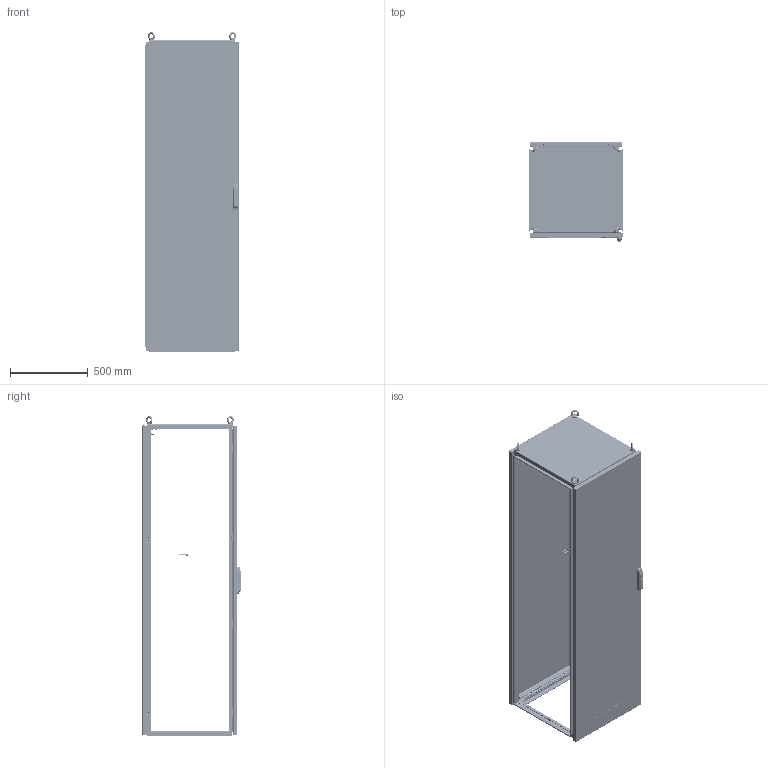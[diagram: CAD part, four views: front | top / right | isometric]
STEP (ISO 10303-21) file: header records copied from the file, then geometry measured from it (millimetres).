
FILE_DESCRIPTION(/* description */ (''),/* implementation_level */ '2;1');
FILE_NAME(/* name */ 'MLA06020060',/* time_stamp */ '2025-09-26T15:21:01+02:00',/* author */ ('INOXVENETA Spa'),/* organization */ ('www.inoxveneta.it '),/* preprocessor_version */ 'ST-DEVELOPER v19.4',/* originating_system */ 'Solid Edge',/* authorisation */ 'Unknown');
FILE_SCHEMA (('AUTOMOTIVE_DESIGN {1 0 10303 214 3 1 1}'));
Products named in the file (69): MLA06020060; F0000001.24; AE00198.03; M000X000.65; M0000000.14; AE00500.10; M000X000.66; M0000000.54; M0000000.39; M0000000.06; AE00219.03; AE00715.01; M000X000.67; M0000000.70; F0000000.18; F000X001.98; F000X001.99; F0000001.44; F0000000.07; AE00100.03_oa_0; AE00100.03_oa_1; AE00100.03_oa_2; AE00100.03_oa_3; F000X000.14; AE00989.12; M0000000.37; AE00701.03; F0000000.13; M000X001.49; F000X002.00_oa_4; F000X002.02_oa_5; F0000001.45_oa_6; F0000000.12; AE00222.15; AE00316.01; AE00992.10_oa_7; AE00992.31; AE00315.01; R1000002.14; AE00992.18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
Assembly tree (259 placements, depth 5):
  MLA06020060
    F0000001.24  x4
    AE00198.03  x16
    M000X000.65
      M0000000.14  x4
      AE00500.10  x48
      M000X000.66  x2
        M0000000.54
        M0000000.39
        M0000000.06
    AE00219.03  x8
    AE00715.01  x4
    M000X000.67
      M0000000.70
    F0000000.18
    F000X001.98
      F000X001.99
        F0000001.44
      F0000000.07  x2
      AE00100.03_oa_0
      AE00100.03_oa_1
      AE00100.03_oa_2
      AE00100.03_oa_3
    F000X000.14
      AE00989.12
    M0000000.37  x8
    AE00701.03  x4
    F0000000.13  x4
    M000X001.49
      F000X002.00_oa_4
        F000X002.02_oa_5
          F0000001.45_oa_6
        F0000000.12  x8
        AE00222.15  x8
        AE00316.01  x8
        AE00992.10_oa_7
        AE00992.31
        AE00315.01  x4
        R1000002.14  x2
        AE00992.18  x4
        AE00992.16
        AE00636.02  x8
        AE00409.01  x8
        AE00417.01  x2
        R000X002.15
          F0000002.22  x2
          F0000003.02  x2
          F0000001.46  x4
        AE00322.01  x4
      AE00413.05  x2
      M0000001.28
      C0000001.45  x2
      AE00322.01  x2
      F0000000.69  x10
      AE00192.01  x10
      ZM090300.001_oa_8
    F0000000.08  x4
    M000X000.49_oa_9
      M0000000.56
      M0000000.57
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Bounding box: 600 x 638.2 x 2056.97 mm (x, y, z)
Volume: 12072193 mm3; surface area: 13527788.6 mm2
Topology: 270 solids, 270 shells, 15786 faces, 42926 edges, 27777 vertices
Faces by surface type: plane 9681, cylinder 3919, torus 738, cone 664, bspline 534, sphere 250
Full cylindrical faces by diameter (mm): 0.615 x4, 0.96 x1, 1.231 x4, 2 x4, 2.24 x2, 2.88 x1, 3 x1, 3.242 x2, 3.5 x1, 4 x13, 4.134 x11, 4.25 x188, 4.5 x928, 4.917 x73, 4.918 x8, 5 x13, 5.25 x2, 5.5 x10, 6 x78, 6.1 x20, 6.2 x8, 6.5 x34, 6.647 x6, 7.5 x2, 7.827 x6, 8 x4, 8.3 x8, 8.5 x2, 8.8 x1, 9 x48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
Entity records: 146060 total; most frequent: CARTESIAN_POINT 34552, ORIENTED_EDGE 21372, DIRECTION 21323, EDGE_CURVE 10686, LINE 7347, VECTOR 7347, VERTEX_POINT 7202, AXIS2_PLACEMENT_3D 6988
